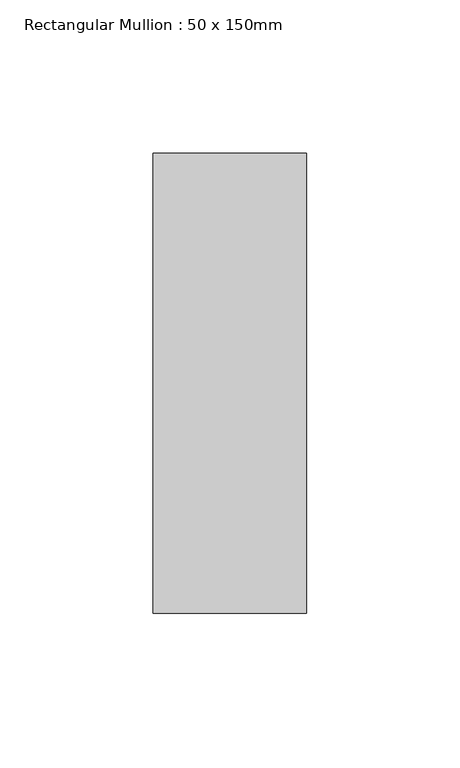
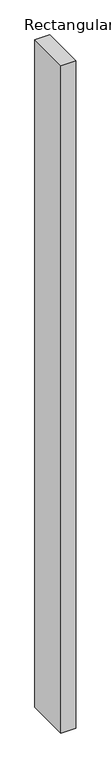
"""IFC4 building model written with IfcOpenShell, lengths in millimetres: member geometry, Rectangular Mullion : 50 x 150mm."""

from ifc_helpers import new_model, si_unit, frame, origin, place, context, project, spatial, polyline, outline, extrude, source, transform, mapped, element, save


def rectangular_mullion_50_x_150mm_16837953(model_context):
    return source(origin(), model_context, "Body", "SweptSolid", [
        extrude(outline(polyline([(25.0, 75.0), (25.0, -75.0), (-25.0, -75.0), (-25.0, 75.0), (25.0, 75.0)])), frame((0.0, 0.0, -2353.2043807), z_axis=(0.0, 0.0, 1.0), x_axis=(1.0, 0.0, 0.0)), (0.0, 0.0, 1.0), 2353.2043807),
    ])


if __name__ == "__main__":
    model = new_model("IFC4")
    model_context = context("Model", 3, world=origin())
    ifc_project = project(units=[si_unit("LENGTHUNIT", "METRE", prefix="MILLI")], contexts=[model_context])
    site = spatial("IfcSite", under=ifc_project)
    building = spatial("IfcBuilding", under=site)
    placement = place(None, origin())
    rectangular_mullion_50_x_150mm_shape = rectangular_mullion_50_x_150mm_16837953(model_context)
    element("IfcMember", 1, ObjectType="Rectangular Mullion : 50 x 150mm", at=placement, inside=building, context=model_context, shape_type="MappedRepresentation", body=[
        mapped(rectangular_mullion_50_x_150mm_shape, transform((0.0, 0.0, 0.0), x_axis=(1.0, 0.0, 0.0), y_axis=(0.0, 1.0, 0.0), z_axis=(0.0, 0.0, 1.0))),
    ])
    save(model, "model.ifc")
